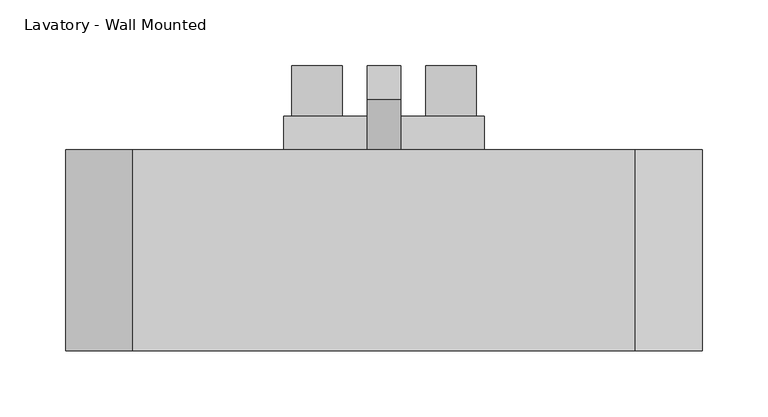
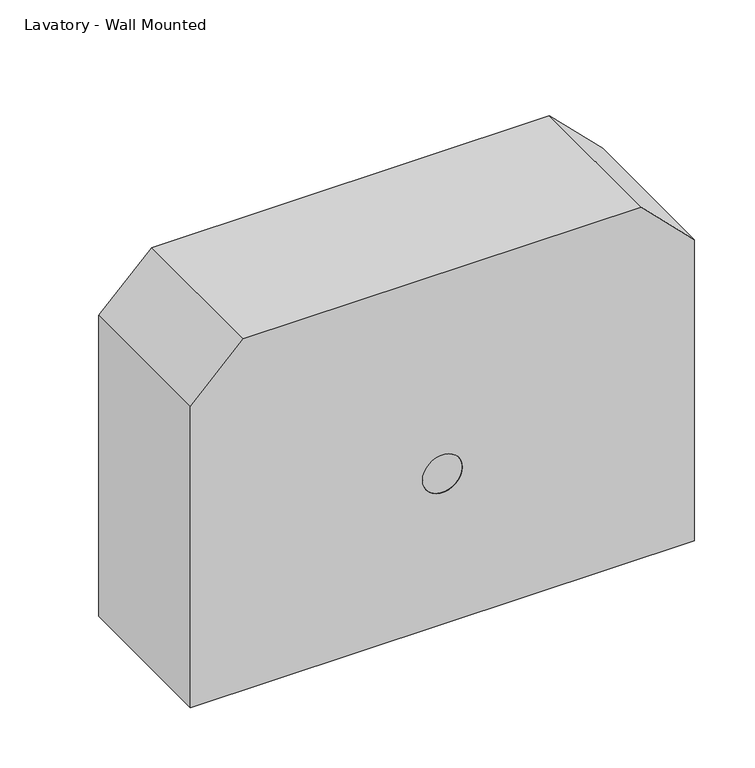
"""IFC4 building model written with IfcOpenShell, lengths in millimetres: flow terminal geometry."""

from ifc_helpers import new_model, si_unit, point, frame, frame_2d, origin, place, context, project, spatial, polyline, circle_curve, trimmed, segment, composite_curve, outline, extrude, source, transform, mapped, element, save
from ifc_brep_helpers import plane_surface, revolved_surface, advanced_brep


def lavatory_wall_mounted_ac7d0257(model_context):
    return source(origin(), model_context, "Body", "SolidModel", [
        advanced_brep(
        [(-241.3, -152.4, 304.8), (-241.3, -152.4, 0.0), (241.3, -152.4, 0.0), (241.3, -152.4, 304.8), (190.5, -152.4, 355.6), (-190.5, -152.4, 355.6), (19.05, -152.4, 152.4), (-19.05, -152.4, 152.4), (-241.3, 0.0, 304.8), (-190.5, 0.0, 355.6), (190.5, 0.0, 355.6), (241.3, 0.0, 304.8), (241.3, 0.0, 0.0), (-241.3, 0.0, 0.0), (169.457951, 0.0, 304.8), (-169.457951, 0.0, 304.8), (-190.5, 0.0, 283.757951), (-190.5, 0.0, 114.3), (190.5, 0.0, 114.3), (190.5, 0.0, 283.757951), (19.05, -127.0, 152.4), (-19.05, -127.0, 152.4), (169.457951, -127.0, 304.8), (190.5, -127.0, 283.757951), (190.5, -127.0, 114.3), (-190.5, -127.0, 114.3), (-190.5, -127.0, 283.757951), (-169.457951, -127.0, 304.8)],
        [
            (0, 1),
            (1, 2),
            (2, 3),
            (3, 4),
            (4, 5),
            (5, 0),
            (6, 7, circle_curve(frame((0.0, -152.4, 152.4), z_axis=(0.0, 1.0, 0.0), x_axis=(1.0, 0.0, 0.0)), 19.05)),
            (7, 6, circle_curve(frame((0.0, -152.4, 152.4), z_axis=(0.0, 1.0, 0.0), x_axis=(1.0, 0.0, 0.0)), 19.05)),
            (8, 9),
            (9, 10),
            (10, 11),
            (11, 12),
            (12, 13),
            (13, 8),
            (14, 15),
            (15, 16),
            (16, 17),
            (17, 18),
            (18, 19),
            (19, 14),
            (0, 8),
            (13, 1),
            (12, 2),
            (11, 3),
            (10, 4),
            (9, 5),
            (6, 20),
            (20, 21, circle_curve(frame((0.0, -127.0, 152.4), z_axis=(0.0, 1.0, 0.0), x_axis=(1.0, 0.0, 0.0)), 19.05)),
            (21, 7),
            (21, 20, circle_curve(frame((0.0, -127.0, 152.4), z_axis=(0.0, 1.0, 0.0), x_axis=(1.0, 0.0, 0.0)), 19.05)),
            (22, 23),
            (23, 24),
            (24, 25),
            (25, 26),
            (26, 27),
            (27, 22),
            (27, 15),
            (14, 22),
            (26, 16),
            (25, 17),
            (24, 18),
            (23, 19),
        ],
        [
            plane_surface(frame((-241.3, -152.4, 304.8), z_axis=(0.0, -1.0, 0.0), x_axis=(0.0, 0.0, -1.0))),
            plane_surface(frame((-241.3, 0.0, 304.8), z_axis=(0.0, 1.0, 0.0), x_axis=(0.0, 0.0, 1.0))),
            plane_surface(frame((-241.3, -152.4, 304.8), z_axis=(-1.0, 0.0, 0.0), x_axis=(0.0, 1.0, 0.0))),
            plane_surface(frame((-241.3, -152.4, 0.0), z_axis=(0.0, 0.0, -1.0), x_axis=(0.0, 1.0, 0.0))),
            plane_surface(frame((241.3, -152.4, 0.0), z_axis=(1.0, 0.0, 0.0), x_axis=(0.0, 1.0, 0.0))),
            plane_surface(frame((241.3, -152.4, 304.8), z_axis=(0.7071067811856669, 0.0, 0.7071067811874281), x_axis=(0.0, 1.0, 0.0))),
            plane_surface(frame((190.5, -152.4, 355.6), z_axis=(0.0, 0.0, 1.0), x_axis=(0.0, 1.0, 0.0))),
            plane_surface(frame((-190.5, -152.4, 355.6), z_axis=(-0.7071067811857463, 0.0, 0.7071067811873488), x_axis=(0.0, 1.0, 0.0))),
            revolved_surface(polyline([(19.05, -152.4, 152.4), (19.05, -127.0, 152.4)]), (0.0, -127.0, 152.4), (0.0, -1.0, 0.0)),
            plane_surface(frame((-169.457951, -127.0, 304.8), z_axis=(0.0, 1.0, 0.0), x_axis=(-1.0, 0.0, 0.0))),
            plane_surface(frame((169.457951, -127.0, 304.8), z_axis=(0.0, 0.0, -1.0), x_axis=(0.0, 1.0, 0.0))),
            plane_surface(frame((-169.457951, -127.0, 304.8), z_axis=(0.707106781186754, 0.0, -0.7071067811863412), x_axis=(0.0, 1.0, 0.0))),
            plane_surface(frame((-190.5, -127.0, 283.757951), z_axis=(1.0, 0.0, 0.0), x_axis=(0.0, 1.0, 0.0))),
            plane_surface(frame((-190.5, -127.0, 114.3), z_axis=(0.0, 0.0, 1.0), x_axis=(0.0, 1.0, 0.0))),
            plane_surface(frame((190.5, -127.0, 114.3), z_axis=(-1.0, 0.0, 0.0), x_axis=(0.0, 1.0, 0.0))),
            plane_surface(frame((190.5, -127.0, 283.757951), z_axis=(-0.7071067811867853, 0.0, -0.7071067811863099), x_axis=(0.0, 1.0, 0.0))),
        ],
        [
            (0, [[1, 2, 3, 4, 5, 6], [7, 8]]),
            (1, [[9, 10, 11, 12, 13, 14], [15, 16, 17, 18, 19, 20]]),
            (2, [[-1, 21, -14, 22]]),
            (3, [[-2, -22, -13, 23]]),
            (4, [[-3, -23, -12, 24]]),
            (5, [[-4, -24, -11, 25]]),
            (6, [[-5, -25, -10, 26]]),
            (7, [[-6, -26, -9, -21]]),
            (8, [[27, 28, 29, -7]]),
            (8, [[-27, -8, -29, 30]]),
            (9, [[31, 32, 33, 34, 35, 36], [-28, -30]]),
            (10, [[-36, 37, -15, 38]]),
            (11, [[-35, 39, -16, -37]]),
            (12, [[-34, 40, -17, -39]]),
            (13, [[-33, 41, -18, -40]]),
            (14, [[-32, 42, -19, -41]]),
            (15, [[-31, -38, -20, -42]]),
        ],
    ),
        extrude(outline(composite_curve([segment(trimmed(circle_curve(frame_2d((152.4, 0.0)), 19.05), [point((152.4, -19.05))], [point((152.4, 19.05))], False, "CARTESIAN"), True, "CONTINUOUS"), segment(trimmed(circle_curve(frame_2d((152.4, 0.0)), 19.05), [point((152.4, 19.05))], [point((152.4, -19.05))], False, "CARTESIAN"), True, "CONTINUOUS")], self_intersect=False)), frame((0.0, -152.4, 0.0), z_axis=(0.0, 1.0, 0.0), x_axis=(0.0, 0.0, 1.0)), (0.0, 0.0, 1.0), 25.4),
        extrude(outline(polyline([(76.2, 0.0), (-76.2, 0.0), (-76.2, 25.4), (76.2, 25.4), (76.2, 0.0)])), frame((0.0, 0.0, 28.575), z_axis=(0.0, 0.0, 1.0), x_axis=(1.0, 0.0, 0.0)), (0.0, 0.0, 1.0), 50.8),
        extrude(outline(composite_curve([segment(trimmed(circle_curve(frame_2d((53.975, 50.8)), 19.05), [point((53.975, 31.75))], [point((53.975, 69.85))], False, "CARTESIAN"), True, "CONTINUOUS"), segment(trimmed(circle_curve(frame_2d((53.975, 50.8)), 19.05), [point((53.975, 69.85))], [point((53.975, 31.75))], False, "CARTESIAN"), True, "CONTINUOUS")], self_intersect=False)), frame((0.0, 25.4, 0.0), z_axis=(0.0, 1.0, 0.0), x_axis=(0.0, 0.0, 1.0)), (0.0, 0.0, 1.0), 38.1),
        extrude(outline(polyline([(25.4, 79.375), (0.0, 79.375), (38.1, 167.363181), (63.5, 167.363181), (25.4, 79.375)])), frame((-12.7, 0.0, 0.0), z_axis=(1.0, 0.0, 0.0), x_axis=(0.0, 1.0, 0.0)), (0.0, 0.0, 1.0), 25.4),
        extrude(outline(composite_curve([segment(trimmed(circle_curve(frame_2d((53.975, -50.8)), 19.05), [point((53.975, -69.85))], [point((53.975, -31.75))], False, "CARTESIAN"), True, "CONTINUOUS"), segment(trimmed(circle_curve(frame_2d((53.975, -50.8)), 19.05), [point((53.975, -31.75))], [point((53.975, -69.85))], False, "CARTESIAN"), True, "CONTINUOUS")], self_intersect=False)), frame((0.0, 25.4, 0.0), z_axis=(0.0, 1.0, 0.0), x_axis=(0.0, 0.0, 1.0)), (0.0, 0.0, 1.0), 38.1),
    ])


if __name__ == "__main__":
    model = new_model("IFC4")
    model_context = context("Model", 3, world=origin())
    ifc_project = project(units=[si_unit("LENGTHUNIT", "METRE", prefix="MILLI")], contexts=[model_context])
    site = spatial("IfcSite", under=ifc_project)
    building = spatial("IfcBuilding", under=site)
    placement = place(None, origin())
    lavatory_wall_mounted_shape = lavatory_wall_mounted_ac7d0257(model_context)
    element("IfcFlowTerminal", 1, ObjectType="Lavatory - Wall Mounted : D2010310_Lavatory_19\"x14\"Public", at=placement, inside=building, context=model_context, shape_type="MappedRepresentation", body=[
        mapped(lavatory_wall_mounted_shape, transform((0.0, 0.0, 0.0), x_axis=(1.0, 0.0, 0.0), y_axis=(0.0, 1.0, 0.0), z_axis=(0.0, 0.0, 1.0))),
    ])
    save(model, "model.ifc")
